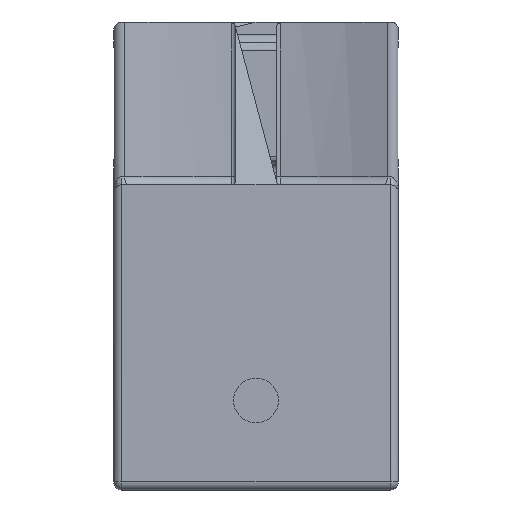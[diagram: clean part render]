
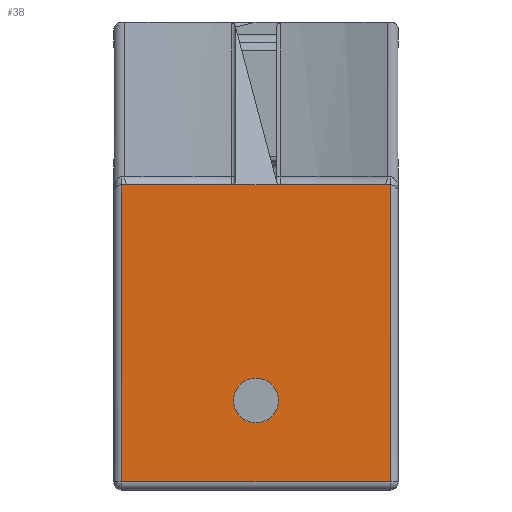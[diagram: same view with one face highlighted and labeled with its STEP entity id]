
A CAD part, front view. The second image highlights one B-rep face of the part: STEP entity #38.
In plain terms, the highlighted planar face has unit normal (0, -1, 0).
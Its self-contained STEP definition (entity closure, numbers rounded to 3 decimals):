
#9 = FACE_BOUND ( 'NONE', #162, .T. ) ;
#38 = ADVANCED_FACE ( 'NONE', ( #1681, #9 ), #2498, .F. ) ;
#162 = EDGE_LOOP ( 'NONE', ( #899, #1279 ) ) ;
#192 = DIRECTION ( 'NONE',  ( 0., 0., 1. ) ) ;
#310 = DIRECTION ( 'NONE',  ( -1., 0., 0. ) ) ;
#335 = CARTESIAN_POINT ( 'NONE',  ( 33., -31.5, -20. ) ) ;
#349 = CARTESIAN_POINT ( 'NONE',  ( -33., -31.5, -20. ) ) ;
#362 = VECTOR ( 'NONE', #1240, 1000. ) ;
#396 = EDGE_CURVE ( 'NONE', #891, #1124, #432, .T. ) ;
#413 = CARTESIAN_POINT ( 'NONE',  ( 0., -31.5, -73. ) ) ;
#426 = DIRECTION ( 'NONE',  ( 0., -1., 0. ) ) ;
#432 = CIRCLE ( 'NONE', #713, 5.5 ) ;
#453 = CARTESIAN_POINT ( 'NONE',  ( 33., -31.5, -93. ) ) ;
#585 = ORIENTED_EDGE ( 'NONE', *, *, #1525, .T. ) ;
#586 = DIRECTION ( 'NONE',  ( 0., 0., -1. ) ) ;
#612 = VERTEX_POINT ( 'NONE', #453 ) ;
#638 = ORIENTED_EDGE ( 'NONE', *, *, #1713, .T. ) ;
#650 = DIRECTION ( 'NONE',  ( 0., 0., -1. ) ) ;
#713 = AXIS2_PLACEMENT_3D ( 'NONE', #1512, #1961, #586 ) ;
#732 = AXIS2_PLACEMENT_3D ( 'NONE', #2270, #868, #192 ) ;
#748 = LINE ( 'NONE', #2620, #2514 ) ;
#754 = DIRECTION ( 'NONE',  ( -1., 0., 0. ) ) ;
#767 = CARTESIAN_POINT ( 'NONE',  ( 0., -31.5, -78.5 ) ) ;
#779 = VECTOR ( 'NONE', #1078, 1000. ) ;
#868 = DIRECTION ( 'NONE',  ( 0., 1., 0. ) ) ;
#891 = VERTEX_POINT ( 'NONE', #767 ) ;
#899 = ORIENTED_EDGE ( 'NONE', *, *, #396, .F. ) ;
#920 = ORIENTED_EDGE ( 'NONE', *, *, #1994, .T. ) ;
#933 = DIRECTION ( 'NONE',  ( 1., 0., 0. ) ) ;
#1068 = ORIENTED_EDGE ( 'NONE', *, *, #2103, .T. ) ;
#1078 = DIRECTION ( 'NONE',  ( -1., 0., 0. ) ) ;
#1124 = VERTEX_POINT ( 'NONE', #1533 ) ;
#1133 = CARTESIAN_POINT ( 'NONE',  ( -33., -31.5, -93. ) ) ;
#1240 = DIRECTION ( 'NONE',  ( 0., 0., 1. ) ) ;
#1279 = ORIENTED_EDGE ( 'NONE', *, *, #2791, .F. ) ;
#1300 = CARTESIAN_POINT ( 'NONE',  ( 33., -31.5, -20. ) ) ;
#1474 = EDGE_LOOP ( 'NONE', ( #585, #920, #638, #1068, #2087, #1972 ) ) ;
#1512 = CARTESIAN_POINT ( 'NONE',  ( 0., -31.5, -73. ) ) ;
#1523 = CARTESIAN_POINT ( 'NONE',  ( 35., -31.5, -93. ) ) ;
#1525 = EDGE_CURVE ( 'NONE', #2556, #2102, #1645, .T. ) ;
#1533 = CARTESIAN_POINT ( 'NONE',  ( 0., -31.5, -67.5 ) ) ;
#1645 = LINE ( 'NONE', #2583, #1831 ) ;
#1681 = FACE_OUTER_BOUND ( 'NONE', #1474, .T. ) ;
#1690 = VERTEX_POINT ( 'NONE', #349 ) ;
#1713 = EDGE_CURVE ( 'NONE', #1690, #2723, #748, .T. ) ;
#1749 = LINE ( 'NONE', #2790, #2641 ) ;
#1751 = LINE ( 'NONE', #1523, #2292 ) ;
#1786 = AXIS2_PLACEMENT_3D ( 'NONE', #413, #426, #650 ) ;
#1831 = VECTOR ( 'NONE', #754, 1000. ) ;
#1961 = DIRECTION ( 'NONE',  ( 0., -1., 0. ) ) ;
#1972 = ORIENTED_EDGE ( 'NONE', *, *, #2290, .T. ) ;
#1994 = EDGE_CURVE ( 'NONE', #2102, #1690, #2227, .T. ) ;
#2087 = ORIENTED_EDGE ( 'NONE', *, *, #2405, .T. ) ;
#2102 = VERTEX_POINT ( 'NONE', #2762 ) ;
#2103 = EDGE_CURVE ( 'NONE', #2723, #612, #1751, .T. ) ;
#2185 = DIRECTION ( 'NONE',  ( 0., 0., -1. ) ) ;
#2227 = LINE ( 'NONE', #2833, #779 ) ;
#2270 = CARTESIAN_POINT ( 'NONE',  ( 35., -31.5, -20. ) ) ;
#2290 = EDGE_CURVE ( 'NONE', #2520, #2556, #1749, .T. ) ;
#2292 = VECTOR ( 'NONE', #933, 1000. ) ;
#2405 = EDGE_CURVE ( 'NONE', #612, #2520, #2812, .T. ) ;
#2472 = CARTESIAN_POINT ( 'NONE',  ( 6., -31.5, -20. ) ) ;
#2498 = PLANE ( 'NONE',  #732 ) ;
#2514 = VECTOR ( 'NONE', #2185, 1000. ) ;
#2520 = VERTEX_POINT ( 'NONE', #1300 ) ;
#2556 = VERTEX_POINT ( 'NONE', #2472 ) ;
#2583 = CARTESIAN_POINT ( 'NONE',  ( 5., -31.5, -20. ) ) ;
#2620 = CARTESIAN_POINT ( 'NONE',  ( -33., -31.5, -20. ) ) ;
#2641 = VECTOR ( 'NONE', #310, 1000. ) ;
#2678 = CIRCLE ( 'NONE', #1786, 5.5 ) ;
#2723 = VERTEX_POINT ( 'NONE', #1133 ) ;
#2762 = CARTESIAN_POINT ( 'NONE',  ( -6., -31.5, -20. ) ) ;
#2790 = CARTESIAN_POINT ( 'NONE',  ( 35., -31.5, -20. ) ) ;
#2791 = EDGE_CURVE ( 'NONE', #1124, #891, #2678, .T. ) ;
#2812 = LINE ( 'NONE', #335, #362 ) ;
#2833 = CARTESIAN_POINT ( 'NONE',  ( 35., -31.5, -20. ) ) ;
